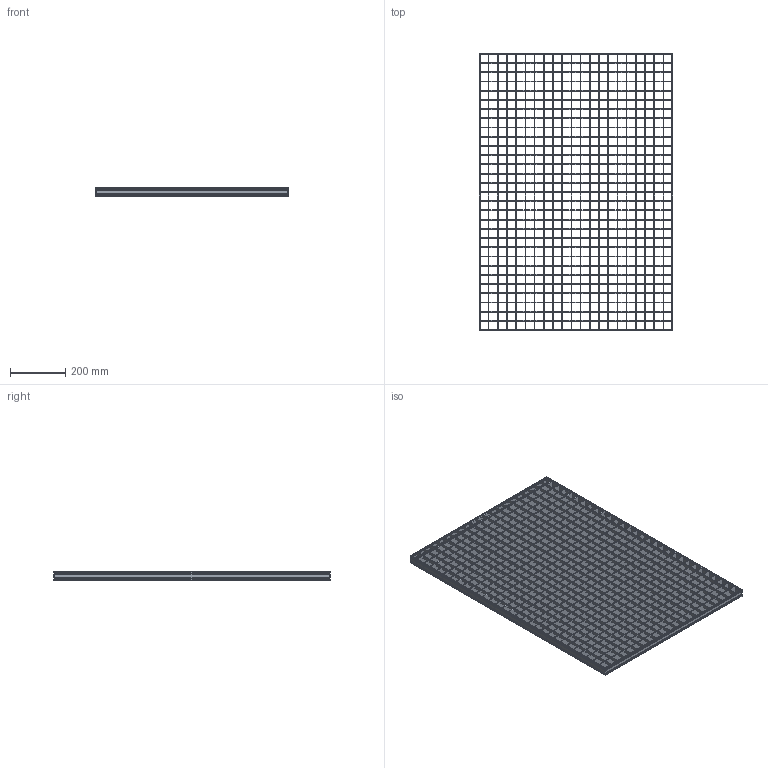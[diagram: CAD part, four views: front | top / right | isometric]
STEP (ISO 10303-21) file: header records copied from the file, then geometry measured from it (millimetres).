
FILE_DESCRIPTION(/* description */ ('STEP AP242','CAx-IF Rec.Pracs.---Representation and Presentation of Product Manufacturing Information (PMI)---4.0---2014-10-13','CAx-IF Rec.Pracs.---3D Tessellated Geometry---0.4---2014-09-14','2;1'),/* implementation_level */ '2;1');
FILE_NAME(/* name */ 'Lichtgitter_Pressure_locked_gratings P 330-33-3-1-1-700-1000_(350_0)',/* time_stamp */ '2026-04-22T14:50:23+02:00',/* author */ ('License CC BY-ND 4.0'),/* organization */ ('CADENAS'),/* preprocessor_version */ 'ST-DEVELOPER v20',/* originating_system */ 'PARTsolutions',/* authorisation */ ' ');
FILE_SCHEMA (('AP242_MANAGED_MODEL_BASED_3D_ENGINEERING_MIM_LF { 1 0 10303 442 1 1 4 }'));
Length unit declared in the file: millimetre
Products named in the file (5): Lichtgitter_Pressure_locked_gratings P 330-33-3-1-1-700-1000_(350_0); Lichtgitter P 330-33-3_(Pressroste_350_1_1000_700)_VERTICAL; Lichtgitter P 330-33-3_(Pressroste_350_1_1000_700)_HORIZONTAL_C; Lichtgitter P 330-33-3_(Pressroste_350_1_1000_700)_HORIZONTAL; Lichtgitter P 330-33-3_(Pressroste_350_1_1000_700)_VERTICAL_C
Assembly tree (53 placements, depth 2):
  Lichtgitter_Pressure_locked_gratings P 330-33-3-1-1-700-1000_(350_0)
    Lichtgitter P 330-33-3_(Pressroste_350_1_1000_700)_VERTICAL  x2
    Lichtgitter P 330-33-3_(Pressroste_350_1_1000_700)_HORIZONTAL_C  x29
    Lichtgitter P 330-33-3_(Pressroste_350_1_1000_700)_HORIZONTAL  x2
    Lichtgitter P 330-33-3_(Pressroste_350_1_1000_700)_VERTICAL_C  x20
Bounding box: 700 x 1000 x 30 mm (x, y, z)
Volume: 2470233 mm3; surface area: 2056635.9 mm2
Topology: 53 solids, 53 shells, 2686 faces, 7740 edges, 5160 vertices
Faces by surface type: plane 2654, cylinder 32
Entity records: 4587 total; most frequent: CARTESIAN_POINT 782, DIRECTION 756, ORIENTED_EDGE 720, EDGE_CURVE 360, LINE 328, VECTOR 328, VERTEX_POINT 240, AXIS2_PLACEMENT_3D 214
